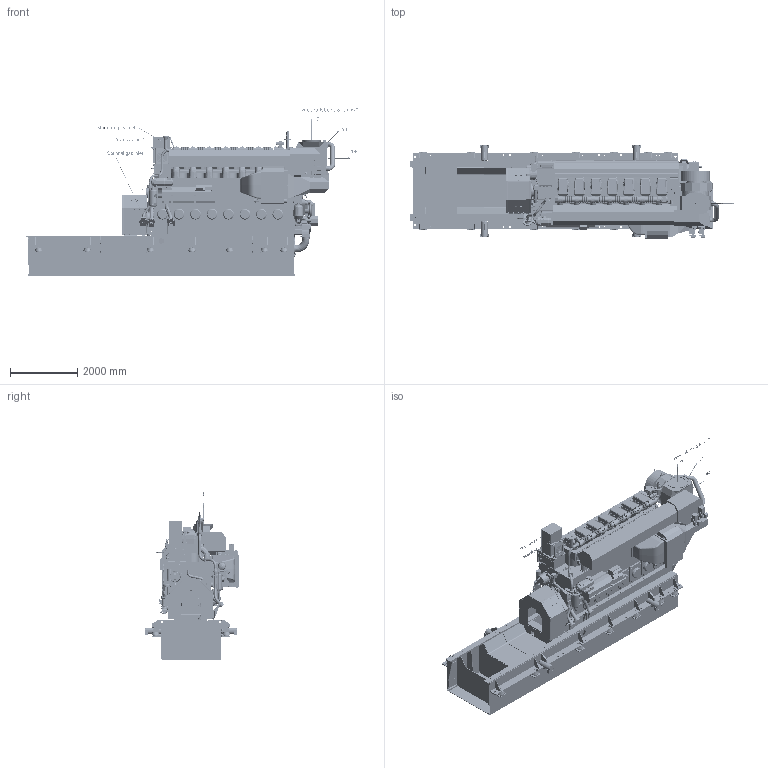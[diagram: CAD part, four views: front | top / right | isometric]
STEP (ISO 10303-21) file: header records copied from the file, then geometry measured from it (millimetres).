
FILE_DESCRIPTION(/* description */ (''),/* implementation_level */ '2;1');
FILE_NAME(/* name */ 'DAAF601823_-.stp',/* time_stamp */ '2023-06-21T10:20:16+03:00',/* author */ (''),/* organization */ (''),/* preprocessor_version */ 'ST-DEVELOPER v18.1',/* originating_system */ 'SIEMENS PLM Software NX 2000',/* authorisation */ '');
FILE_SCHEMA (('AP203_CONFIGURATION_CONTROLLED_3D_DESIGN_OF_MECHANICAL_PARTS_AND_ASSEMBLIES_MIM_LF { 1 0 10303 403 2 1 2}'));
Products named in the file (77): PABA089633_-; PABA582830_-; PAAF975926_-; PAAF975946_-; PAAF078241_-; PABA350108_-; PAAF692337_-; PABA377279_-; PAAF697615_-; PAAF528361_-; PAAF363075_-; PAAF211477_-; PAAF447172_-; PABA097868_-; PAAF683775_-; PAAF443398_-; PAAF442682_-; PAAF271372_-; PABA592161_-; PAAF675626_-; PABA135981_-; PAAF270351_-; PAAF909498_-; PAAF906214_-; PABA065520_-; PAAF078680_-; PABA311381_-; PAAF721110_-; PABA142427_-; PAAF776393_-; PAAF066755_-; PAAF671497_-; PAAF078621_-; PAAF078619_-; PAAF068492_-; PAAF093819_-; PAAF093585_-; PABA367709_-; PAAF074443_-; PAAF087145_-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
Assembly tree (101 placements, depth 3):
  DAAF601823_-
    PABA637382_-_MODEL
      PAAF397145_-
      PAAF243686_-
      PABA036861_-
      PAAF063631_-
      PAAF238216_-
      PAAF291916_-
      PAAF906204_-
      PAAF063673_-
      PAAF895907_-
      PABA097230_-
      PABA097243_-
      PAAF064319_-
      PAAF243623_-
      PAAF074388_-
      PABA395694_-
      PAAF087082_-
      PAAF087111_-
      PAAF247479_-
      PAAF087114_-
      PAAF087122_-
      PAAF078074_-
      PABA478503_-
      PAAF906213_-
      PAAF247485_-
      PAAF087136_-
      PAAF243744_-
      PABA339899_-
      PAAF087145_-
      PAAF074443_-
      PABA367709_-
      PAAF093585_-
      PAAF093819_-
      PAAF068492_-
      PAAF078619_-
      PAAF078621_-
      PAAF671497_-
      PAAF066755_-
      PAAF776393_-
      PABA142427_-
      PAAF721110_-
      PABA311381_-
      PAAF078680_-
      PABA065520_-
      PAAF906214_-
      PAAF909498_-
      PAAF270351_-
      PABA135981_-
      PAAF675626_-
      PABA592161_-
      PAAF271372_-
      PAAF442682_-
      PAAF443398_-  x2
      PAAF683775_-
      PABA097868_-
      PAAF447172_-
      PAAF211477_-
      PAAF363075_-
      PAAF528361_-
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Bounding box: 9881.56 x 2785 x 5007.18 mm (x, y, z)
Volume: 16553430071.8 mm3; surface area: 398302430.3 mm2
Topology: 820 solids, 845 shells, 26914 faces, 70526 edges, 46020 vertices
Faces by surface type: plane 14475, cylinder 8478, bspline 1720, extrusion 885, cone 696, torus 610, sphere 47, revolution 3
Full cylindrical faces by diameter (mm): 1 x7, 3 x3, 4 x14, 4.5 x4, 5 x20, 6 x27, 6.75 x1, 6.8 x164, 7 x19, 8 x185, 8.5 x66, 9 x21, 9.7 x1, 10 x167, 10.25 x20, 11 x1, 11.908 x1, 12 x46, 12.3 x1, 13.2 x4, 13.5 x4, 13.8 x146, 14 x379, 14.4 x1, 14.5 x2, 15 x16, 15.5 x4, 15.6 x4, 15.7 x4, 16 x13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
Entity records: 987266 total; most frequent: CARTESIAN_POINT 340069, ORIENTED_EDGE 127208, DIRECTION 120582, EDGE_CURVE 63604, VERTEX_POINT 43505, AXIS2_PLACEMENT_3D 41291, VECTOR 37997, LINE 37112
